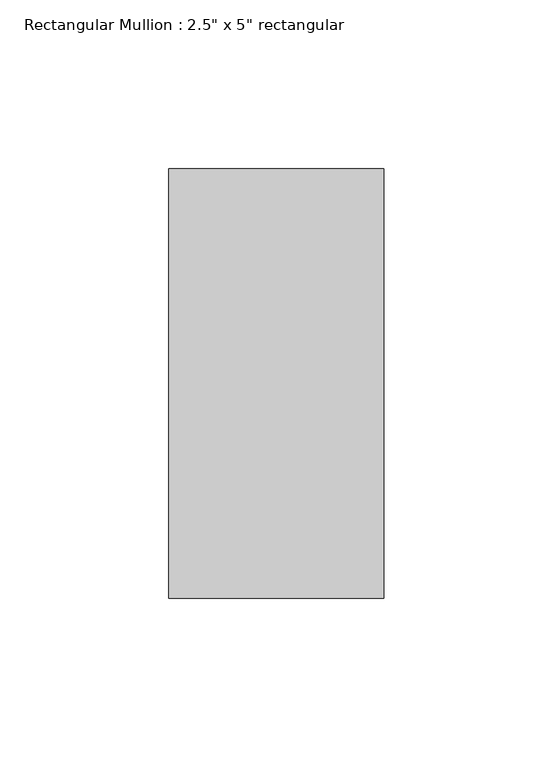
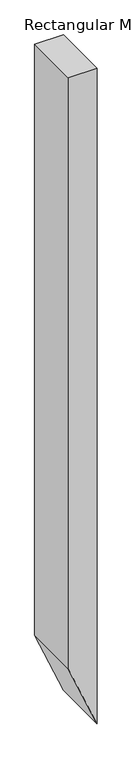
"""IFC4 building model written with IfcOpenShell, lengths in millimetres: member geometry."""

import ifcopenshell
import ifcopenshell.guid

model = None  # the IFC model being written
_history = None  # IfcOwnerHistory: only IFC2X3 demands one
_inside = {}  # id of a spatial element -> (the spatial element, [elements in it])
_under = {}  # id of a project, library or spatial element -> (it, [spatial elements below it])
_declared = {}  # id of a project -> (the project, [libraries it declares])
_typed = {}  # id of a type object -> (the type object, [elements of that type])
_made_of = {}  # id of a material, layer set ... -> (it, [elements and type objects made of it])


def new_model(schema):
    """Start an empty IFC model of exactly this schema.

    Asked for "IFC4X3", IfcOpenShell would pick the latest addendum, in which some entities
    have other attributes; the version numbers below select the first issue.
    IFC2X3 requires an IfcOwnerHistory on every rooted entity: one is made here for all.
    """
    global model, _history
    if schema == "IFC4X3":
        model = ifcopenshell.file(schema_version=(4, 3, 0, 0))
    else:
        model = ifcopenshell.file(schema=schema)
    _inside.clear()
    _under.clear()
    _declared.clear()
    _typed.clear()
    _made_of.clear()
    _history = None
    if model.schema == "IFC2X3":
        org = make("IfcOrganization", Name="unknown")
        user = make(
            "IfcPersonAndOrganization",
            ThePerson=make("IfcPerson", FamilyName="unknown"),
            TheOrganization=org,
        )
        app = make(
            "IfcApplication",
            ApplicationDeveloper=org,
            Version="unknown",
            ApplicationFullName="unknown",
            ApplicationIdentifier="unknown",
        )
        _history = make(
            "IfcOwnerHistory",
            OwningUser=user,
            OwningApplication=app,
            ChangeAction="ADDED",
            CreationDate=0,
        )
    return model


def make(cls, **values):
    """One entity of the class cls with the attributes given. An attribute that is None is left unset."""
    return model.create_entity(
        cls, **{name: value for name, value in values.items() if value is not None}
    )


def rooted(cls, **values):
    """An entity with a GlobalId (a new one), such as an element, a storey or a relation."""
    return make(cls, GlobalId=ifcopenshell.guid.new(), OwnerHistory=_history, **values)


def si_unit(unit_type, name, prefix=None):
    """IfcSIUnit, for example si_unit("LENGTHUNIT", "METRE", prefix="MILLI")."""
    return make("IfcSIUnit", UnitType=unit_type, Prefix=prefix, Name=name)


def assignment(units):
    """IfcUnitAssignment: the units of a project."""
    return None if units is None else make("IfcUnitAssignment", Units=units)


def point(xyz):
    """IfcCartesianPoint."""
    return None if xyz is None else make("IfcCartesianPoint", Coordinates=xyz)


def direction(xyz):
    """IfcDirection."""
    return None if xyz is None else make("IfcDirection", DirectionRatios=xyz)


def frame(location, z_axis=None, x_axis=None):
    """IfcAxis2Placement3D, a coordinate frame: its origin and axes. An axis left out is left unset."""
    return make(
        "IfcAxis2Placement3D",
        Location=point(location),
        Axis=direction(z_axis),
        RefDirection=direction(x_axis),
    )


def origin():
    """The frame at (0, 0, 0) with its axes left unset."""
    return frame((0.0, 0.0, 0.0))


def place(relative_to, where):
    """IfcLocalPlacement: puts the frame where relative to a parent placement (None: the world)."""
    return make(
        "IfcLocalPlacement", PlacementRelTo=relative_to, RelativePlacement=where
    )


def context(
    kind, dimensions, precision=None, world=None, true_north=None, identifier=None
):
    """IfcGeometricRepresentationContext, for example the 3D "Model" context."""
    return make(
        "IfcGeometricRepresentationContext",
        ContextIdentifier=identifier,
        ContextType=kind,
        CoordinateSpaceDimension=dimensions,
        Precision=precision,
        WorldCoordinateSystem=world,
        TrueNorth=true_north,
    )


def project(units=None, contexts=None):
    """IfcProject with its units and contexts."""
    return rooted(
        "IfcProject",
        Name="project",
        RepresentationContexts=contexts,
        UnitsInContext=assignment(units),
    )


def spatial(cls, under=None, at=None, **own):
    """A site, building, storey or space (cls), placed at a placement, below another one or the project."""
    s = rooted(cls, ObjectPlacement=at, **own)
    if under is not None:
        _under.setdefault(under.id(), (under, []))[1].append(s)
    return s


def polyline(points):
    """IfcPolyline through the points."""
    return make("IfcPolyline", Points=[point(p) for p in points])


def outline(outer, holes=None, kind="AREA"):
    """IfcArbitraryClosedProfileDef: a profile drawn as a closed curve; with holes, ...WithVoids."""
    if holes is None:
        return make("IfcArbitraryClosedProfileDef", ProfileType=kind, OuterCurve=outer)
    return make(
        "IfcArbitraryProfileDefWithVoids",
        ProfileType=kind,
        OuterCurve=outer,
        InnerCurves=holes,
    )


def extrude(swept, where, along, depth):
    """IfcExtrudedAreaSolid: the profile swept, set in the frame where, extruded along a direction by depth."""
    return make(
        "IfcExtrudedAreaSolid",
        SweptArea=swept,
        Position=where,
        ExtrudedDirection=direction(along),
        Depth=depth,
    )


def shape(context_of_items, identifier, shape_type, items):
    """IfcShapeRepresentation: the items that make up one representation, for example the "Body"."""
    return make(
        "IfcShapeRepresentation",
        ContextOfItems=context_of_items,
        RepresentationIdentifier=identifier,
        RepresentationType=shape_type,
        Items=items,
    )


def source(mapping_origin, context_of_items, identifier, shape_type, items):
    """IfcRepresentationMap: a shape defined once, which mapped items show again and again."""
    return make(
        "IfcRepresentationMap",
        MappingOrigin=mapping_origin,
        MappedRepresentation=shape(context_of_items, identifier, shape_type, items),
    )


def transform(
    local_origin,
    x_axis=None,
    y_axis=None,
    z_axis=None,
    scale=None,
    scale2=None,
    scale3=None,
    uniform=True,
):
    """IfcCartesianTransformationOperator3D, or its non-uniform kind. x_axis, y_axis, z_axis: its Axis1, 2, 3."""
    if uniform:
        return make(
            "IfcCartesianTransformationOperator3D",
            Axis1=direction(x_axis),
            Axis2=direction(y_axis),
            LocalOrigin=point(local_origin),
            Scale=scale,
            Axis3=direction(z_axis),
        )
    return make(
        "IfcCartesianTransformationOperator3DnonUniform",
        Axis1=direction(x_axis),
        Axis2=direction(y_axis),
        LocalOrigin=point(local_origin),
        Scale=scale,
        Axis3=direction(z_axis),
        Scale2=scale2,
        Scale3=scale3,
    )


def mapped(mapping_source, mapping_target):
    """IfcMappedItem: shows the shape of a source again, moved by a transform."""
    return make(
        "IfcMappedItem", MappingSource=mapping_source, MappingTarget=mapping_target
    )


def made_of(thing, what):
    """Note that an element or type object is made of a material, layer set ...; save() writes the relation."""
    if what is not None:
        _made_of.setdefault(what.id(), (what, []))[1].append(thing)
    return thing


def element(
    cls,
    number,
    at=None,
    inside=None,
    cuts=None,
    type_object=None,
    material=None,
    context=None,
    identifier="Body",
    shape_type=None,
    held_by="IfcProductDefinitionShape",
    body=None,
    shapes=None,
    **own,
):
    """One element of the class cls, such as IfcWall. Its Tag is "e" and its number.

    at: its placement. inside: the storey or other place that contains it. cuts: it is an
    opening in that element (IfcRelVoidsElement). A single representation is given by context,
    identifier, shape_type and body (its items); several are given by shapes. held_by: the class
    of the entity that holds the representations. save() writes the other relations.
    """
    e = rooted(cls, Tag="e%d" % number, ObjectPlacement=at, **own)
    if body is not None:
        shapes = [shape(context, identifier, shape_type, body)]
    if shapes is not None:
        e.Representation = make(held_by, Representations=shapes)
    if inside is not None:
        _inside.setdefault(inside.id(), (inside, []))[1].append(e)
    if cuts is not None:
        rooted(
            "IfcRelVoidsElement", RelatingBuildingElement=cuts, RelatedOpeningElement=e
        )
    if type_object is not None:
        _typed.setdefault(type_object.id(), (type_object, []))[1].append(e)
    return made_of(e, material)


def aggregate(whole, parts):
    """IfcRelAggregates: a whole, such as a stair, and the parts it consists of."""
    return rooted("IfcRelAggregates", RelatingObject=whole, RelatedObjects=parts)


def save(model, path):
    """Write the relations noted so far, then the file.

    IfcRelAggregates (storeys below a building ...), IfcRelContainedInSpatialStructure (elements
    in a storey), IfcRelDefinesByType, IfcRelAssociatesMaterial and IfcRelDeclares: one each for
    every whole, place, type object, material and project.
    """
    for whole, parts in _under.values():
        aggregate(whole, parts)
    for where, things in _inside.values():
        rooted(
            "IfcRelContainedInSpatialStructure",
            RelatedElements=things,
            RelatingStructure=where,
        )
    for kind, things in _typed.values():
        rooted("IfcRelDefinesByType", RelatedObjects=things, RelatingType=kind)
    for what, things in _made_of.values():
        rooted("IfcRelAssociatesMaterial", RelatedObjects=things, RelatingMaterial=what)
    for by, libraries in _declared.values():
        rooted("IfcRelDeclares", RelatingContext=by, RelatedDefinitions=libraries)
    model.write(path)


def member_8e9367d3(model_context):
    return source(origin(), model_context, "Body", "SweptSolid", [
        extrude(outline(polyline([(0.0, 0.0), (0.0, -63.5), (-1373.9238719, -63.5), (-1524.0, 0.0), (0.0, 0.0)])), frame((0.0, -63.5, 0.0), z_axis=(0.0, 1.0, 0.0), x_axis=(0.0, 0.0, 1.0)), (0.0, 0.0, 1.0), 127.0),
    ])


if __name__ == "__main__":
    model = new_model("IFC4")
    model_context = context("Model", 3, world=origin())
    ifc_project = project(units=[si_unit("LENGTHUNIT", "METRE", prefix="MILLI")], contexts=[model_context])
    site = spatial("IfcSite", under=ifc_project)
    building = spatial("IfcBuilding", under=site)
    placement = place(None, origin())
    member_shape = member_8e9367d3(model_context)
    element("IfcMember", 1, ObjectType="Rectangular Mullion : 2.5\" x 5\" rectangular", at=placement, inside=building, context=model_context, shape_type="MappedRepresentation", body=[
        mapped(member_shape, transform((0.0, 0.0, 0.0), x_axis=(1.0, 0.0, 0.0), y_axis=(0.0, 1.0, 0.0), z_axis=(0.0, 0.0, 1.0))),
    ])
    save(model, "model.ifc")
